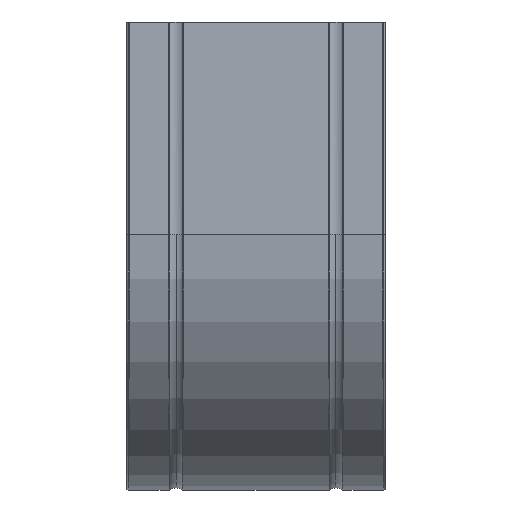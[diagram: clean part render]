
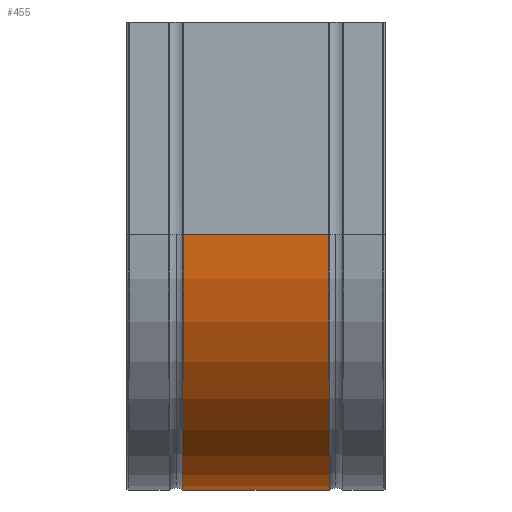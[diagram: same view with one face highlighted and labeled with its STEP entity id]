
A CAD part, front view. The second image highlights one B-rep face of the part: STEP entity #455.
In plain terms, the highlighted cylindrical face has radius 150 mm (diameter 300 mm), a partial arc.
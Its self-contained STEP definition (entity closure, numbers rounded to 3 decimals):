
#41 = CIRCLE ( 'NONE', #1660, 150. ) ;
#72 = CYLINDRICAL_SURFACE ( 'NONE', #174, 150. ) ;
#125 = CIRCLE ( 'NONE', #2365, 150. ) ;
#174 = AXIS2_PLACEMENT_3D ( 'NONE', #246, #907, #1467 ) ;
#246 = CARTESIAN_POINT ( 'NONE',  ( 0., 150., -125. ) ) ;
#372 = DIRECTION ( 'NONE',  ( 0., 0., -1. ) ) ;
#388 = EDGE_CURVE ( 'NONE', #2297, #1501, #1622, .T. ) ;
#413 = ORIENTED_EDGE ( 'NONE', *, *, #1161, .T. ) ;
#455 = ADVANCED_FACE ( 'NONE', ( #644 ), #72, .T. ) ;
#480 = ORIENTED_EDGE ( 'NONE', *, *, #2185, .F. ) ;
#563 = VECTOR ( 'NONE', #605, 1000. ) ;
#605 = DIRECTION ( 'NONE',  ( 1., 0., 0. ) ) ;
#644 = FACE_OUTER_BOUND ( 'NONE', #899, .T. ) ;
#682 = CARTESIAN_POINT ( 'NONE',  ( 43., 150., -125. ) ) ;
#899 = EDGE_LOOP ( 'NONE', ( #480, #413, #2438, #1487 ) ) ;
#907 = DIRECTION ( 'NONE',  ( 1., 0., 0. ) ) ;
#1161 = EDGE_CURVE ( 'NONE', #1574, #2297, #125, .T. ) ;
#1362 = EDGE_CURVE ( 'NONE', #2248, #1501, #41, .T. ) ;
#1401 = CARTESIAN_POINT ( 'NONE',  ( -43., 150., -275. ) ) ;
#1467 = DIRECTION ( 'NONE',  ( 0., 0., -1. ) ) ;
#1487 = ORIENTED_EDGE ( 'NONE', *, *, #1362, .F. ) ;
#1498 = CARTESIAN_POINT ( 'NONE',  ( 43., 0., -125. ) ) ;
#1501 = VERTEX_POINT ( 'NONE', #2266 ) ;
#1521 = CARTESIAN_POINT ( 'NONE',  ( -43., 150., -275. ) ) ;
#1532 = DIRECTION ( 'NONE',  ( 0., 0., -1. ) ) ;
#1574 = VERTEX_POINT ( 'NONE', #2254 ) ;
#1622 = LINE ( 'NONE', #1401, #563 ) ;
#1660 = AXIS2_PLACEMENT_3D ( 'NONE', #682, #1767, #1532 ) ;
#1767 = DIRECTION ( 'NONE',  ( 1., 0., 0. ) ) ;
#1932 = LINE ( 'NONE', #2334, #2287 ) ;
#2067 = CARTESIAN_POINT ( 'NONE',  ( -43., 150., -125. ) ) ;
#2124 = DIRECTION ( 'NONE',  ( 1., 0., 0. ) ) ;
#2185 = EDGE_CURVE ( 'NONE', #1574, #2248, #1932, .T. ) ;
#2248 = VERTEX_POINT ( 'NONE', #1498 ) ;
#2254 = CARTESIAN_POINT ( 'NONE',  ( -43., 0., -125. ) ) ;
#2266 = CARTESIAN_POINT ( 'NONE',  ( 43., 150., -275. ) ) ;
#2287 = VECTOR ( 'NONE', #2124, 1000. ) ;
#2297 = VERTEX_POINT ( 'NONE', #1521 ) ;
#2334 = CARTESIAN_POINT ( 'NONE',  ( -43., 0., -125. ) ) ;
#2365 = AXIS2_PLACEMENT_3D ( 'NONE', #2067, #2659, #372 ) ;
#2438 = ORIENTED_EDGE ( 'NONE', *, *, #388, .T. ) ;
#2659 = DIRECTION ( 'NONE',  ( 1., 0., 0. ) ) ;
